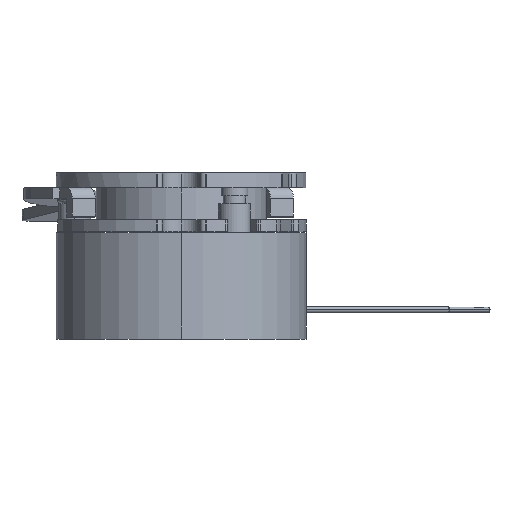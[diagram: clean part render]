
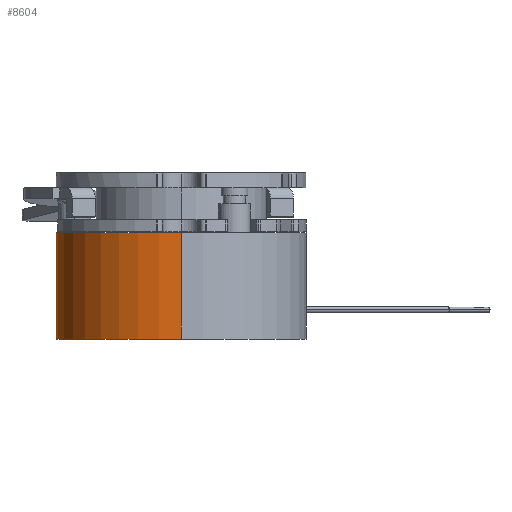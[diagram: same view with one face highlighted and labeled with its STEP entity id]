
A CAD part, left-side view. The second image highlights one B-rep face of the part: STEP entity #8604.
In plain terms, the highlighted cylindrical face has radius 23.5 mm (diameter 47 mm), a partial arc.
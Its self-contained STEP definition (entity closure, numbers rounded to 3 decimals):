
#614 = CARTESIAN_POINT ( 'NONE',  ( 23.5, 0., 0. ) ) ;
#618 = CARTESIAN_POINT ( 'NONE',  ( -23.5, 0., 20. ) ) ;
#619 = CARTESIAN_POINT ( 'NONE',  ( 23.5, 0., 20. ) ) ;
#656 = CARTESIAN_POINT ( 'NONE',  ( -23.5, 0., 0. ) ) ;
#3420 = FACE_OUTER_BOUND ( 'NONE', #8333, .T. ) ;
#3428 = CYLINDRICAL_SURFACE ( 'NONE', #4311, 23.5 ) ;
#4311 = AXIS2_PLACEMENT_3D ( 'NONE', #5913, #5914, #5922 ) ;
#5913 = CARTESIAN_POINT ( 'NONE',  ( 0., 0., 20. ) ) ;
#5914 = DIRECTION ( 'NONE',  ( 0., 0., -1. ) ) ;
#5922 = DIRECTION ( 'NONE',  ( -1., 0., 0. ) ) ;
#8333 = EDGE_LOOP ( 'NONE', ( #10486, #10488, #10490, #10539 ) ) ;
#8604 = ADVANCED_FACE ( 'NONE', ( #3420 ), #3428, .T. ) ;
#9316 = AXIS2_PLACEMENT_3D ( 'NONE', #11324, #11325, #11326 ) ;
#9321 = AXIS2_PLACEMENT_3D ( 'NONE', #11345, #11346, #11347 ) ;
#9886 = EDGE_CURVE ( 'NONE', #13895, #13939, #12620, .T. ) ;
#9890 = EDGE_CURVE ( 'NONE', #13888, #13939, #12625, .T. ) ;
#9898 = EDGE_CURVE ( 'NONE', #13896, #13895, #12637, .T. ) ;
#9914 = EDGE_CURVE ( 'NONE', #13896, #13888, #12668, .T. ) ;
#10486 = ORIENTED_EDGE ( 'NONE', *, *, #9898, .F. ) ;
#10488 = ORIENTED_EDGE ( 'NONE', *, *, #9914, .T. ) ;
#10490 = ORIENTED_EDGE ( 'NONE', *, *, #9890, .T. ) ;
#10539 = ORIENTED_EDGE ( 'NONE', *, *, #9886, .F. ) ;
#11311 = CARTESIAN_POINT ( 'NONE',  ( -23.5, 0., 20. ) ) ;
#11312 = DIRECTION ( 'NONE',  ( 0., 0., -1. ) ) ;
#11324 = CARTESIAN_POINT ( 'NONE',  ( 0., 0., 0. ) ) ;
#11325 = DIRECTION ( 'NONE',  ( 0., 0., 1. ) ) ;
#11326 = DIRECTION ( 'NONE',  ( 1., 0., 0. ) ) ;
#11345 = CARTESIAN_POINT ( 'NONE',  ( 0., 0., 20. ) ) ;
#11346 = DIRECTION ( 'NONE',  ( 0., 0., 1. ) ) ;
#11347 = DIRECTION ( 'NONE',  ( 1., 0., 0. ) ) ;
#11383 = CARTESIAN_POINT ( 'NONE',  ( 23.5, 0., 20. ) ) ;
#11384 = DIRECTION ( 'NONE',  ( 0., 0., -1. ) ) ;
#12620 = LINE ( 'NONE', #11311, #12623 ) ;
#12623 = VECTOR ( 'NONE', #11312, 1000. ) ;
#12625 = CIRCLE ( 'NONE', #9316, 23.5 ) ;
#12637 = CIRCLE ( 'NONE', #9321, 23.5 ) ;
#12668 = LINE ( 'NONE', #11383, #12673 ) ;
#12673 = VECTOR ( 'NONE', #11384, 1000. ) ;
#13888 = VERTEX_POINT ( 'NONE', #614 ) ;
#13895 = VERTEX_POINT ( 'NONE', #618 ) ;
#13896 = VERTEX_POINT ( 'NONE', #619 ) ;
#13939 = VERTEX_POINT ( 'NONE', #656 ) ;
